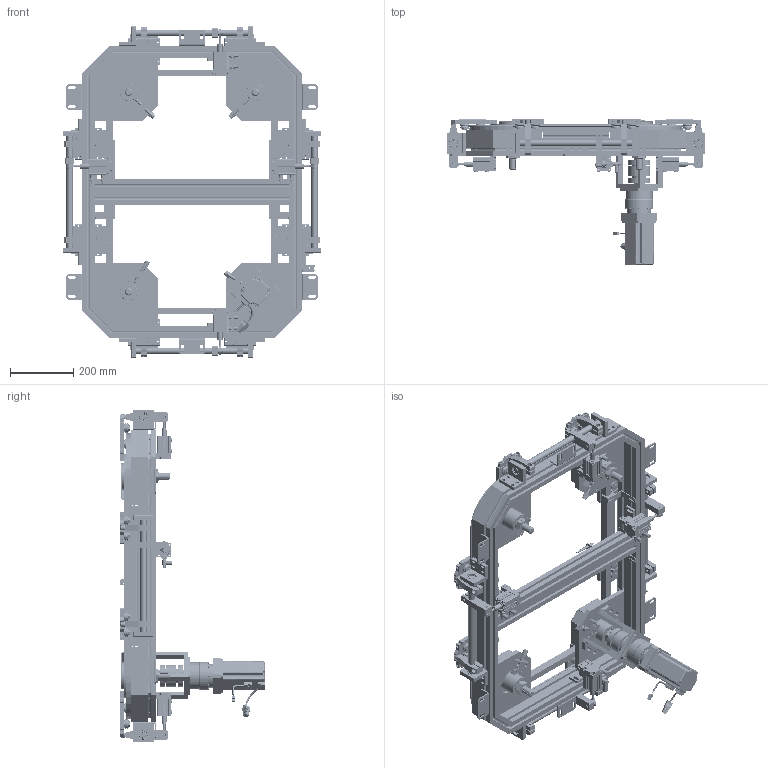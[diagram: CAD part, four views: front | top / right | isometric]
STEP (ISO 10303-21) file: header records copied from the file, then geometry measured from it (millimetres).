
FILE_DESCRIPTION (( 'STEP AP214' ), '1' );
FILE_NAME ('5.29-DC-Y1.STEP', '2023-05-29T01:23:01', ( '微软用户' ), ( '微软中国' ), 'SwSTEP 2.0', 'SolidWorks 2016', '' );
FILE_SCHEMA (( 'AUTOMOTIVE_DESIGN' ));
Length unit declared in the file: millimetre
Products named in the file (82): 4.23-DC-SC19-AHA01-LA1-幗謫蚳蚚菜え; 4.23-DC-SC21-ECB01-TB1-ァ詰蟀諉粣; 4.23-DC-SC21-EDA02-TB1-ァ詰蟀諉等嫉; 4.23-DC-萇儂750W; 4.23-DC-SC19-AIA01-LA1-幗謫蚳蚚蹟譫; 4.23-DC-三定位摆臂组-型材外; 4.23-DC-SC21-DBB02-TB1-蟈沭翋雄粣陑6006; 镜向4.23-DC-SC21-EAA01-TB1-型材气缸轴承座-外_BHLC6003ZZ-40-KCA; 4.23-DC-SC21-EFA01-TB1-型材感应开关支架-定位; 4.23-DC-255-撻倛倰第郪; 噩砃4.23-DC-SC21-EEA02-TB1-雄薯啊旋; 噩砃4.23-DC-SC21-EDB02-TB1-ァ詰蟀諉邧嫉; 4.23-DC-SC21-CCB02-TB1-型材皮带挡板-链槽支架; 4.23-DC-SC21-AJA01-TB1-苤陬蟈謫誘欶; 4.23-DC-SC21-ADB02-TB1-蟈沭蟀諉蜇璃-侂; 4.23-DC-SC21-EAA01-TB1-倰第ァ詰粣創釱-俋_BHLC6003ZZ-40-KCA; 4.23-DC-255-蟈沭苤陬郪; 镜向4.23-DC-三摆臂光轴; 4.23-DC-SC21-AEA01-TB1-摆臂式定位附件-外; 4.23-DC-SC21-AMA01-TB1-蚐碟; 4.23-DC-SC21-EFA02-TB1-型材感应开关支架-无定位; 4.23-DC-翋雄菁啣255; 4.23-DC-SC21-ACA02-TB1-轻载环轨255; 4.23-DC-蟈沭蟈羞盓傅郪; 4.23-DC-SC21-DHB01-TB1-桲踡蜇璃; 4.23-DC-随动器16_KRV 168; 镜向4.23-DC-随动器16_KRV 168; 4.23-DC-SC19-AFA01-LA1-幗謫; 4.23-DC-联轴器68-75-22-22-6T; 4.23-DC-隅弇郪赶桉粣創-m8-30; 5.29-DC-Y1; 4.23-DC-SC21-EEB02-TB1-隅弇啊旋; 4.23-DC-255蟈謫謫郪; 4.23-DC-三摆臂光轴; 4.23-DC-SC21-DDA02-TB1-M27-3.0滅侂蹟譫; 4.23-DC-邧啊旋嫖粣; 4.23-DC-SC21-GBA09-TB1-訇晚倰第255; 4.23-DC-SC21-CCA01-TB1-倰第蟈羞; 4.23-DC-SC21-DHA01-TB1-桲踡輸; 4.23-DC-熬厒儂DAB90-L2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
Assembly tree (170 placements, depth 4):
  5.29-DC-Y1
    4.23-DC-255撻倛蟈沭GMP郪
      4.23-DC-SC19-ABA01-LA1-眻寢酗僅A  x2
      4.23-DC-SC21-ACA02-TB1-轻载环轨255  x4
      4.23-DC-255-蟈沭苤陬郪  x8
        4.23-DC-SC21-AAA-TB1-苤陬啣255
        4.23-DC-SC21-ADB02-TB1-蟈沭蟀諉蜇璃-侂
        4.23-DC-SC21-AEA01-TB1-摆臂式定位附件-外
        4.23-DC-SC21-AGA01-TB1-幗謫脹詢菜え
        4.23-DC-SC21-AMA01-TB1-蚐碟
        4.23-DC-SC19-AFA01-LA1-幗謫
        4.23-DC-SC19-ANA01-LA1-肮陑幗謫粣
        4.23-DC-SC19-AOA01-LA1-ぇ陑幗謫粣
        4.23-DC-SC19-AIA01-LA1-幗謫蚳蚚蹟譫
        4.23-DC-SC19-AHA01-LA1-幗謫蚳蚚菜え
        4.23-DC-SC21-AJA01-TB1-苤陬蟈謫誘欶
        4.23-DC-ﾍｭﾌﾗ｣ｨｦﾕ10X6X6)
        4.23-DC-SC21-AQA03-TB1-12A蟈沭樓酗諶
      4.23-DC-SC19-ABA02-LA1-眻寢酗僅B  x2
    4.23-DC-255-撻倛倰第郪
      4.23-DC-4080倰第撻倛酗晚255  x2
      4.23-DC-4080型材矩形中间连接255
      4.23-DC-SC21-GBA09-TB1-訇晚倰第255  x4
      4.23-DC-4080倰第撻倛傻晚255  x2
    4.23-DC-翋雄菁啣255  x4
    4.23-DC-255蟈謫謫郪  x4
      4.23-DC-SC21-CAA01-TB1-255翋雄蟈謫20C_05B
      4.23-DC-SC21-DBB02-TB1-蟈沭翋雄粣陑6006
      4.23-DC-SC21-DDA02-TB1-M27-3.0滅侂蹟譫
      4.23-DC-SC21-DAB01-TB1-翋雄粣創釱6006
      4.23-DC-6006-2Z
      4.23-DC-SC21-DCA01-TB1-翋雄粣傷裔-255
      4.23-DC-籵蚚桲踡郪
        4.23-DC-SC21-DHA01-TB1-桲踡輸
        4.23-DC-SC21-DHB01-TB1-桲踡蜇璃
        4.23-DC-SC21-DHC01-TB1-桲踡蹟佪
    4.23-DC-蟈沭蟈羞盓傅郪  x2
      4.23-DC-SC21-CCB02-TB1-型材皮带挡板-链槽支架
      4.23-DC-SC21-CCA01-TB1-倰第蟈羞
    4.23-DC-三定位摆臂组-型材外
      4.23-DC-SC21-EAA01-TB1-倰第ァ詰粣創釱-俋_BHLC6003ZZ-40-KCA  x2
      4.23-DC-SC21-ECA01-TB1-啊旋蟀諉粣
      4.23-DC-SC21-ECB01-TB1-ァ詰蟀諉粣
      4.23-DC-SC21-EEA02-TB1-雄薯啊旋
      4.23-DC-SC21-EEB02-TB1-隅弇啊旋  x2
      4.23-DC-SC21-EDA02-TB1-ァ詰蟀諉等嫉
      4.23-DC-SC21-EDB02-TB1-ァ詰蟀諉邧嫉
      4.23-DC-三摆臂光轴
      4.23-DC-6003  x2
      4.23-DC-ACQ 32×20S_ACQ32-100超薄气缸_ACQ 32×20-1
      4.23-DC-隅弇郪赶桉粣創-m8-30
      4.23-DC-随动器16_KRV 168  x2
    4.23-DC-255蟈沭-撻倛
    4.23-DC-型材感应开关组-定位
      4.23-DC-SC21-EFA01-TB1-型材感应开关支架-定位
      4.23-DC-E2B_S08LN04_WP_C1（NPN）
    4.23-DC-型材感应开关组-无定位
      4.23-DC-SC21-EFA02-TB1-型材感应开关支架-无定位
      4.23-DC-E2B_S08LN04_WP_C1（NPN）
    4.23-DC-750W萇儂郪
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Bounding box: 819 x 459.04 x 1050 mm (x, y, z)
Volume: 17610508.4 mm3; surface area: 5739602.6 mm2
Topology: 752 solids, 761 shells, 19839 faces, 49670 edges, 31609 vertices
Faces by surface type: plane 8257, cylinder 7269, bspline 2700, cone 1261, torus 325, sphere 27
Entity records: 190849 total; most frequent: CARTESIAN_POINT 58196, ORIENTED_EDGE 26448, DIRECTION 26125, EDGE_CURVE 13224, AXIS2_PLACEMENT_3D 9824, VERTEX_POINT 8574, VECTOR 6477, LINE 6477
